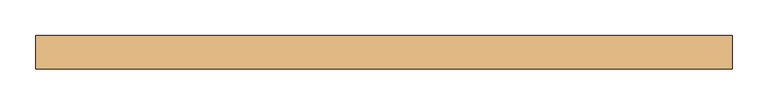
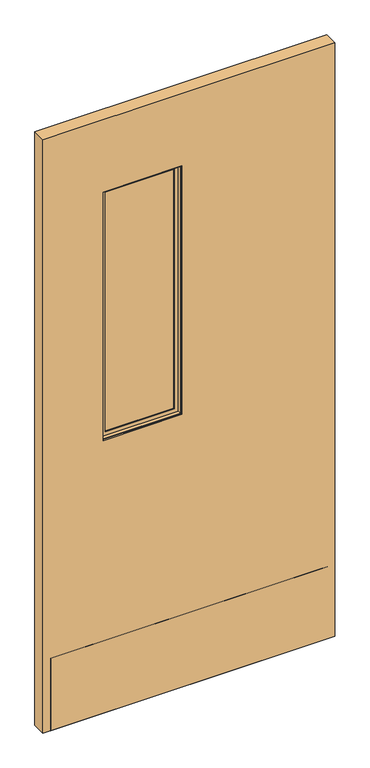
"""IFC4 building model written with IfcOpenShell, lengths in millimetres: door geometry, Solid_Hinged_Door_Glass_insert-AIH-Teknion-FHDB-Leaf_Single-R2022 : (A) Justified Half Glass insert."""

from ifc_helpers import new_model, si_unit, frame, origin, place, context, project, spatial, polyline, outline, extrude, faceted_brep, source, transform, mapped, element, save


def door_8daac041(model_context):
    return source(origin(), model_context, "Body", "SolidModel", [
        extrude(outline(polyline([(-23.0964326, 3.175), (-23.0964326, -3.175), (-284.7164326, -3.175), (-284.7164326, 3.175), (-23.0964326, 3.175)])), frame((0.0, 0.0, 968.7435027), z_axis=(0.0, 0.0, 1.0), x_axis=(1.0, 0.0, 0.0)), (0.0, 0.0, 1.0), 871.22),
        faceted_brep([(-268.8258536, -3.797467, 1824.0729238), (-268.8258536, -6.9755828, 1824.0729238), (-268.8258536, -6.9755828, 984.6340817), (-268.8258536, -3.797467, 984.6340817), (-38.9870115, -6.9755828, 984.6340817), (-38.9870115, -3.797467, 984.6340817), (-26.2745484, -6.9755828, 971.9216185), (-26.2745484, -6.9755828, 1836.7853869), (-281.5383168, -6.9755828, 1836.7853869), (-281.5383168, -6.9755828, 971.9216185), (-38.9870115, -6.9755828, 1824.0729238), (-38.9870115, -3.797467, 1824.0729238), (-284.7164326, -3.797467, 968.7435027), (-284.7164326, -3.797467, 1839.9635027), (-23.0964326, -3.797467, 1839.9635027), (-23.0964326, -3.797467, 968.7435027), (-284.7164326, -19.688046, 1839.9635027), (-284.7164326, -19.688046, 968.7435027), (-23.0964326, -19.688046, 968.7435027), (-23.0964326, -19.688046, 1839.9635027), (-281.5383168, -19.688046, 971.9216185), (-281.5383168, -19.688046, 1836.7853869), (-26.2745484, -19.688046, 1836.7853869), (-26.2745484, -19.688046, 971.9216185)], [[[0, 1, 2, 3]], [[3, 2, 4, 5]], [[6, 7, 8, 9], [2, 1, 10, 4]], [[5, 4, 10, 11]], [[12, 13, 14, 15], [5, 11, 0, 3]], [[16, 13, 12, 17]], [[17, 12, 15, 18]], [[18, 15, 14, 19]], [[18, 19, 16, 17], [20, 21, 22, 23]], [[8, 21, 20, 9]], [[9, 20, 23, 6]], [[6, 23, 22, 7]], [[11, 10, 1, 0]], [[19, 14, 13, 16]], [[7, 22, 21, 8]]]),
        faceted_brep([(-281.5383168, 19.688046, 1836.7853869), (-281.5383168, 6.9755828, 1836.7853869), (-281.5383168, 6.9755828, 971.9216185), (-281.5383168, 19.688046, 971.9216185), (-26.2745484, 6.9755828, 971.9216185), (-26.2745484, 19.688046, 971.9216185), (-26.2745484, 6.9755828, 1836.7853869), (-38.9870115, 6.9755828, 984.6340817), (-38.9870115, 6.9755828, 1824.0729238), (-268.8258536, 6.9755828, 1824.0729238), (-268.8258536, 6.9755828, 984.6340817), (-26.2745484, 19.688046, 1836.7853869), (-284.7164326, 19.688046, 968.7435027), (-284.7164326, 19.688046, 1839.9635027), (-23.0964326, 19.688046, 1839.9635027), (-23.0964326, 19.688046, 968.7435027), (-284.7164326, 3.797467, 1839.9635027), (-284.7164326, 3.797467, 968.7435027), (-23.0964326, 3.797467, 968.7435027), (-23.0964326, 3.797467, 1839.9635027), (-268.8258536, 3.797467, 984.6340817), (-268.8258536, 3.797467, 1824.0729238), (-38.9870115, 3.797467, 1824.0729238), (-38.9870115, 3.797467, 984.6340817)], [[[0, 1, 2, 3]], [[3, 2, 4, 5]], [[2, 1, 6, 4], [7, 8, 9, 10]], [[5, 4, 6, 11]], [[12, 13, 14, 15], [5, 11, 0, 3]], [[16, 13, 12, 17]], [[17, 12, 15, 18]], [[18, 15, 14, 19]], [[18, 19, 16, 17], [20, 21, 22, 23]], [[9, 21, 20, 10]], [[10, 20, 23, 7]], [[7, 23, 22, 8]], [[11, 6, 1, 0]], [[19, 14, 13, 16]], [[8, 22, 21, 9]]]),
        extrude(outline(polyline([(2093.9635027, 484.1064326), (2093.9635027, -484.1064326), (12.7, -484.1064326), (12.7, 484.1064326), (2093.9635027, 484.1064326)]), holes=[polyline([(1839.9635027, -284.7164326), (1839.9635027, -23.0964326), (968.7435027, -23.0964326), (968.7435027, -284.7164326), (1839.9635027, -284.7164326)])]), frame((0.0, -23.114, 0.0), z_axis=(0.0, 1.0, 0.0), x_axis=(0.0, 0.0, 1.0)), (0.0, 0.0, 1.0), 46.228),
        extrude(outline(polyline([(458.7064326, -9.8925062), (458.7064326, -11.4927062), (-458.7064326, -11.4927062), (-458.7064326, -9.8925062), (458.7064326, -9.8925062)])), frame((0.0, 0.0, 12.7), z_axis=(0.0, 0.0, 1.0), x_axis=(1.0, 0.0, 0.0)), (0.0, 0.0, 1.0), 254.0),
        extrude(outline(polyline([(458.7064326, -21.5634094), (458.7064326, -23.114), (-458.7064326, -23.114), (-458.7064326, -21.5634094), (458.7064326, -21.5634094)])), frame((0.0, 0.0, 12.7), z_axis=(0.0, 0.0, 1.0), x_axis=(1.0, 0.0, 0.0)), (0.0, 0.0, 1.0), 254.0),
    ])


if __name__ == "__main__":
    model = new_model("IFC4")
    model_context = context("Model", 3, world=origin())
    ifc_project = project(units=[si_unit("LENGTHUNIT", "METRE", prefix="MILLI")], contexts=[model_context])
    site = spatial("IfcSite", under=ifc_project)
    building = spatial("IfcBuilding", under=site)
    placement = place(None, origin())
    door_shape = door_8daac041(model_context)
    element("IfcDoor", 1, ObjectType="Solid_Hinged_Door_Glass_insert-AIH-Teknion-FHDB-Leaf_Single-R2022 : (A) Justified Half Glass insert", at=placement, inside=building, context=model_context, shape_type="MappedRepresentation", body=[
        mapped(door_shape, transform((0.0, 0.0, 0.0), x_axis=(1.0, 0.0, 0.0), y_axis=(0.0, 1.0, 0.0), z_axis=(0.0, 0.0, 1.0))),
    ])
    save(model, "model.ifc")
